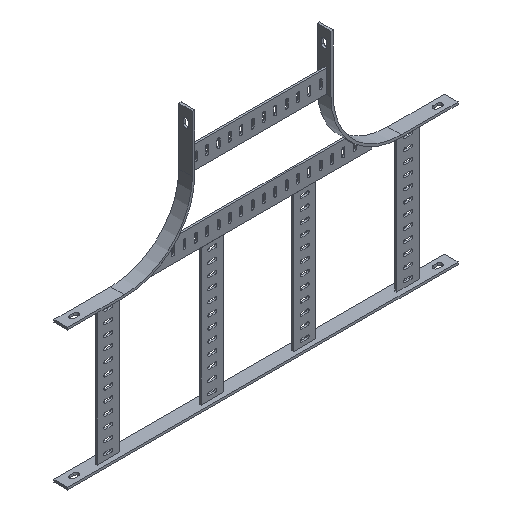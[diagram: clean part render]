
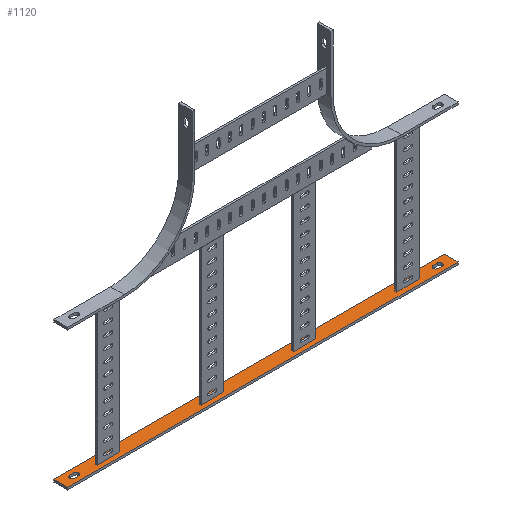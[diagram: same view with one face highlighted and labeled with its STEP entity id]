
A CAD part, isometric view. The second image highlights one B-rep face of the part: STEP entity #1120.
In plain terms, the highlighted planar face has unit normal (0, 0, 1).
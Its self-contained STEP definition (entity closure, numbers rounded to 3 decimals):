
#10=CARTESIAN_POINT('',(0.,0.,0.));
#20=DIRECTION('',(0.,0.,1.));
#30=DIRECTION('',(1.,0.,0.));
#40=AXIS2_PLACEMENT_3D('',#10,#20,#30);
#50=PLANE('',#40);
#60=CARTESIAN_POINT('',(844.,117.,0.));
#70=DIRECTION('',(-1.,0.,0.));
#80=VECTOR('',#70,1.);
#90=LINE('',#60,#80);
#100=CARTESIAN_POINT('',(844.,117.,0.));
#110=VERTEX_POINT('',#100);
#120=CARTESIAN_POINT('',(-16.,117.,0.));
#130=VERTEX_POINT('',#120);
#140=EDGE_CURVE('',#110,#130,#90,.T.);
#150=ORIENTED_EDGE('',*,*,#140,.T.);
#160=CARTESIAN_POINT('',(844.,87.,0.));
#170=DIRECTION('',(0.,1.,0.));
#180=VECTOR('',#170,1.);
#190=LINE('',#160,#180);
#200=CARTESIAN_POINT('',(844.,87.,0.));
#210=VERTEX_POINT('',#200);
#220=EDGE_CURVE('',#210,#110,#190,.T.);
#230=ORIENTED_EDGE('',*,*,#220,.T.);
#240=CARTESIAN_POINT('',(-16.,87.,0.));
#250=DIRECTION('',(1.,0.,0.));
#260=VECTOR('',#250,1.);
#270=LINE('',#240,#260);
#280=CARTESIAN_POINT('',(-16.,87.,0.));
#290=VERTEX_POINT('',#280);
#300=EDGE_CURVE('',#290,#210,#270,.T.);
#310=ORIENTED_EDGE('',*,*,#300,.T.);
#320=CARTESIAN_POINT('',(-16.,117.,0.));
#330=DIRECTION('',(0.,-1.,0.));
#340=VECTOR('',#330,1.);
#350=LINE('',#320,#340);
#360=EDGE_CURVE('',#130,#290,#350,.T.);
#370=ORIENTED_EDGE('',*,*,#360,.T.);
#380=EDGE_LOOP('',(#370,#310,#230,#150));
#390=FACE_OUTER_BOUND('',#380,.T.);
#400=CARTESIAN_POINT('',(809.5,102.,0.));
#410=DIRECTION('',(0.,0.,1.));
#420=DIRECTION('',(1.,0.,0.));
#430=AXIS2_PLACEMENT_3D('',#400,#410,#420);
#440=CIRCLE('',#430,5.5);
#450=CARTESIAN_POINT('',(809.5,107.5,0.));
#460=VERTEX_POINT('',#450);
#470=CARTESIAN_POINT('',(809.5,96.5,0.));
#480=VERTEX_POINT('',#470);
#490=EDGE_CURVE('',#460,#480,#440,.T.);
#500=ORIENTED_EDGE('',*,*,#490,.F.);
#510=CARTESIAN_POINT('',(0.,96.5,0.));
#520=DIRECTION('',(1.,0.,0.));
#530=VECTOR('',#520,1.);
#540=LINE('',#510,#530);
#550=CARTESIAN_POINT('',(818.5,96.5,0.));
#560=VERTEX_POINT('',#550);
#570=EDGE_CURVE('',#480,#560,#540,.T.);
#580=ORIENTED_EDGE('',*,*,#570,.F.);
#590=CARTESIAN_POINT('',(818.5,102.,0.));
#600=DIRECTION('',(0.,0.,1.));
#610=DIRECTION('',(1.,0.,0.));
#620=AXIS2_PLACEMENT_3D('',#590,#600,#610);
#630=CIRCLE('',#620,5.5);
#640=CARTESIAN_POINT('',(818.5,107.5,0.));
#650=VERTEX_POINT('',#640);
#660=EDGE_CURVE('',#560,#650,#630,.T.);
#670=ORIENTED_EDGE('',*,*,#660,.F.);
#680=CARTESIAN_POINT('',(0.,107.5,0.));
#690=DIRECTION('',(-1.,0.,0.));
#700=VECTOR('',#690,1.);
#710=LINE('',#680,#700);
#720=EDGE_CURVE('',#650,#460,#710,.T.);
#730=ORIENTED_EDGE('',*,*,#720,.F.);
#740=EDGE_LOOP('',(#730,#670,#580,#500));
#750=FACE_BOUND('',#740,.T.);
#760=CARTESIAN_POINT('',(18.5,102.,0.));
#770=DIRECTION('',(0.,0.,1.));
#780=DIRECTION('',(1.,0.,0.));
#790=AXIS2_PLACEMENT_3D('',#760,#770,#780);
#800=CIRCLE('',#790,5.5);
#810=CARTESIAN_POINT('',(18.5,96.5,0.));
#820=VERTEX_POINT('',#810);
#830=CARTESIAN_POINT('',(18.5,107.5,0.));
#840=VERTEX_POINT('',#830);
#850=EDGE_CURVE('',#820,#840,#800,.T.);
#860=ORIENTED_EDGE('',*,*,#850,.F.);
#870=CARTESIAN_POINT('',(0.,107.5,0.));
#880=DIRECTION('',(-1.,0.,0.));
#890=VECTOR('',#880,1.);
#900=LINE('',#870,#890);
#910=CARTESIAN_POINT('',(9.5,107.5,0.));
#920=VERTEX_POINT('',#910);
#930=EDGE_CURVE('',#840,#920,#900,.T.);
#940=ORIENTED_EDGE('',*,*,#930,.F.);
#950=CARTESIAN_POINT('',(9.5,102.,0.));
#960=DIRECTION('',(0.,0.,1.));
#970=DIRECTION('',(1.,0.,0.));
#980=AXIS2_PLACEMENT_3D('',#950,#960,#970);
#990=CIRCLE('',#980,5.5);
#1000=CARTESIAN_POINT('',(9.5,96.5,0.));
#1010=VERTEX_POINT('',#1000);
#1020=EDGE_CURVE('',#920,#1010,#990,.T.);
#1030=ORIENTED_EDGE('',*,*,#1020,.F.);
#1040=CARTESIAN_POINT('',(0.,96.5,0.));
#1050=DIRECTION('',(1.,0.,0.));
#1060=VECTOR('',#1050,1.);
#1070=LINE('',#1040,#1060);
#1080=EDGE_CURVE('',#1010,#820,#1070,.T.);
#1090=ORIENTED_EDGE('',*,*,#1080,.F.);
#1100=EDGE_LOOP('',(#1090,#1030,#940,#860));
#1110=FACE_BOUND('',#1100,.T.);
#1120=ADVANCED_FACE('',(#390,#750,#1110),#50,.T.);
